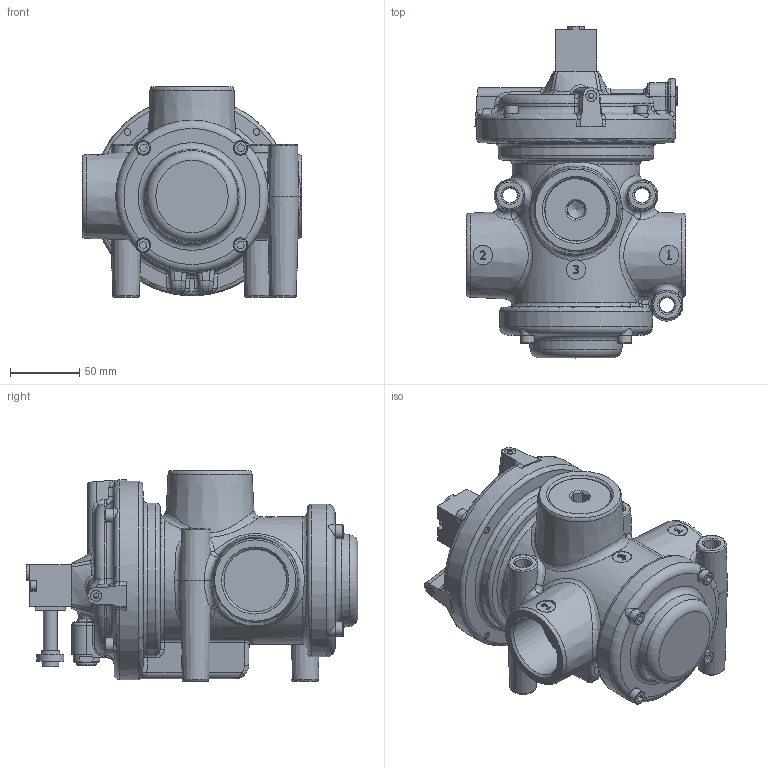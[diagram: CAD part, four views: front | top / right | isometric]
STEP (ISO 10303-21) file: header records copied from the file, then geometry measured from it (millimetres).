
FILE_DESCRIPTION(/* description */ ('EV.OTT. x VUOTO 2/2 NC SOL-MOLLA AUTOALIM. CON M3R'),/* implementation_level */ '2;1');
FILE_NAME(/* name */ 'C:\PNX_VAULTFOLDER\Area Tecnica\Disegni\VARIE-3D\Componenti\1900 (vuoto)\N776-V_22_0_1AC_M3R.stp',/* time_stamp */ '2019-09-13T14:09:33+02:00',/* author */ ('maniean1'),/* organization */ ('Pneumax S.p.A.'),/* preprocessor_version */ 'ST-DEVELOPER v17',/* originating_system */ 'Autodesk Inventor 2019',/* authorisation */ '');
FILE_SCHEMA (('AUTOMOTIVE_DESIGN { 1 0 10303 214 3 1 1 }'));
Length unit declared in the file: millimetre
Products named in the file (1): N776/V.22.0.1AC.M3R
Bounding box: 158 x 239 x 151.5 mm (x, y, z)
Volume: 1972367.8 mm3; surface area: 179724.3 mm2
Topology: 1 solids, 25 shells, 841 faces, 2170 edges, 1400 vertices
Faces by surface type: plane 311, bspline 195, cylinder 161, cone 93, torus 63, sphere 18
Full cylindrical faces by diameter (mm): 2.2 x2, 3.242 x2, 4 x15, 4.917 x8, 6 x9, 7 x5, 7.3 x1, 8 x2, 8.566 x1, 8.68 x1, 10 x11, 12 x2, 13.3 x1, 14 x5, 18 x1, 18.622 x1, 19 x1, 19.5 x1, 37.8 x1, 40 x1, 44 x1, 45 x4, 110 x1, 143 x1
Entity records: 35964 total; most frequent: CARTESIAN_POINT 15618, ORIENTED_EDGE 4294, DIRECTION 3722, EDGE_CURVE 2147, AXIS2_PLACEMENT_3D 1509, VERTEX_POINT 1400, EDGE_LOOP 915, FACE_OUTER_BOUND 841
